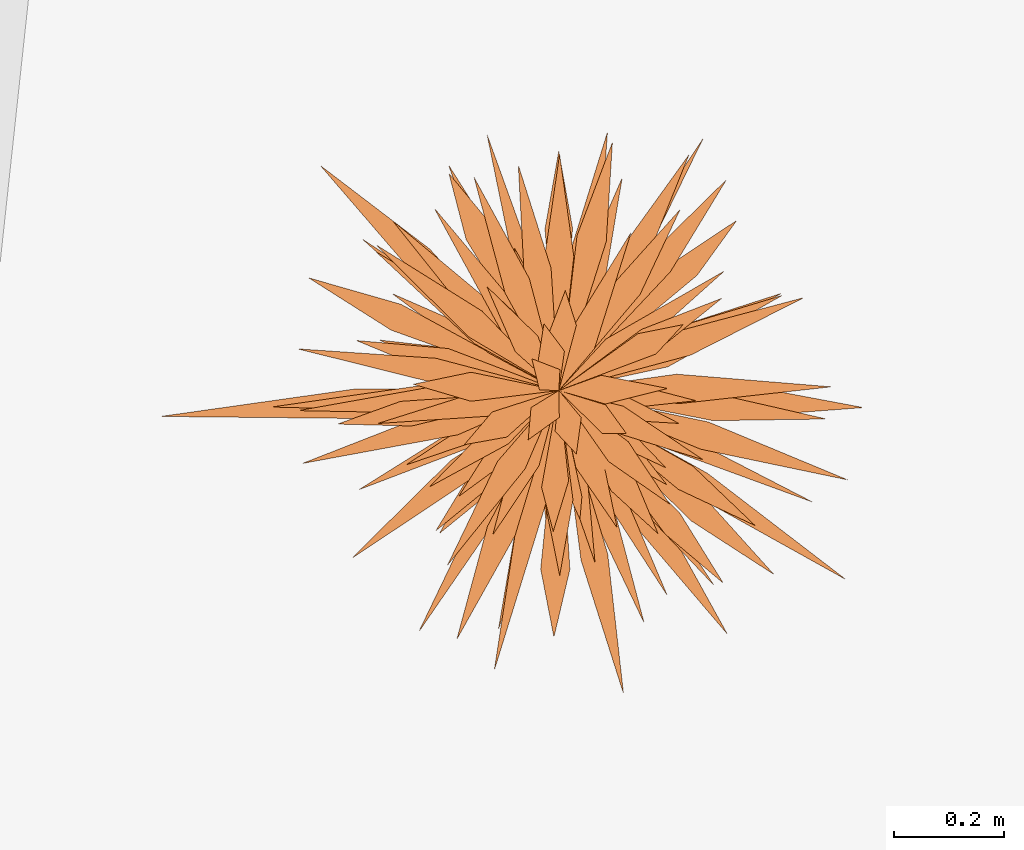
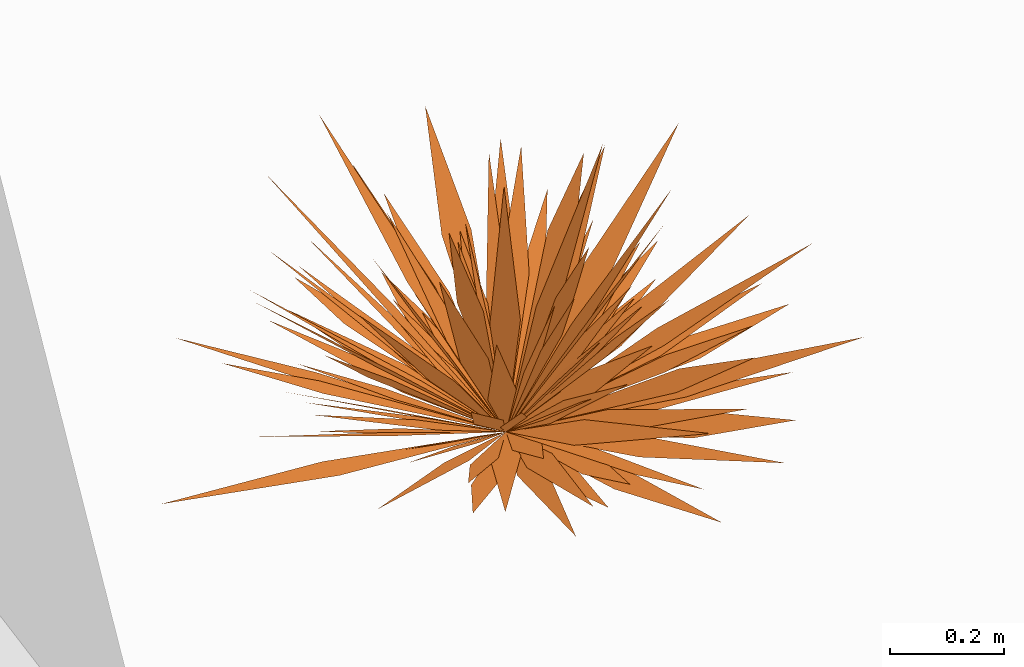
# One storey, part 7 of 7: 1 proxy.
"""IFC2X3 building model written with IfcOpenShell, lengths in metres."""

from ifc_helpers import new_model, entity, si_unit, converted_unit, derived_unit, money_unit, direction, frame, origin_with_axes, place, context, subcontext, project, spatial, open_shell, surface_model, type_object, element, save


model = new_model("IFC2X3")

# Units and contexts
model_context = context("Model", 3, precision=1e-05, world=origin_with_axes(), true_north=direction((0.0, 1.0)))
body_context = subcontext(model_context, "Body", "Model", "MODEL_VIEW")
ifc_project = project(units=[si_unit("LENGTHUNIT", "METRE"), si_unit("AREAUNIT", "SQUARE_METRE"), si_unit("VOLUMEUNIT", "CUBIC_METRE"), converted_unit("PLANEANGLEUNIT", "DEGREE", entity("IfcPlaneAngleMeasure", 0.0174532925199), si_unit("PLANEANGLEUNIT", "RADIAN"), dimensions=[0, 0, 0, 0, 0, 0, 0]), si_unit("SOLIDANGLEUNIT", "STERADIAN"), money_unit("CHF"), converted_unit("TIMEUNIT", "Year", entity("IfcTimeMeasure", 31556926.0), si_unit("TIMEUNIT", "SECOND"), dimensions=[0, 0, 1, 0, 0, 0, 0]), si_unit("MASSUNIT", "GRAM", prefix="KILO"), si_unit("THERMODYNAMICTEMPERATUREUNIT", "DEGREE_CELSIUS"), si_unit("LUMINOUSINTENSITYUNIT", "LUMEN"), si_unit("ENERGYUNIT", "JOULE", prefix="MEGA"), derived_unit("THERMALCONDUCTANCEUNIT", [(si_unit("POWERUNIT", "WATT"), 1), (si_unit("LENGTHUNIT", "METRE"), -1), (si_unit("THERMODYNAMICTEMPERATUREUNIT", "KELVIN"), -1)]), derived_unit("SPECIFICHEATCAPACITYUNIT", [(si_unit("ENERGYUNIT", "JOULE"), 1), (si_unit("MASSUNIT", "GRAM", prefix="KILO"), -1), (si_unit("THERMODYNAMICTEMPERATUREUNIT", "KELVIN"), -1)]), derived_unit("MASSDENSITYUNIT", [(si_unit("MASSUNIT", "GRAM", prefix="KILO"), 1), (si_unit("VOLUMEUNIT", "CUBIC_METRE"), -1)])], contexts=[model_context])

# Site, building, storey
site_placement = place(None, origin_with_axes())
site = spatial("IfcSite", under=ifc_project, at=site_placement, Name="Site", CompositionType="ELEMENT")
building_placement = place(site_placement, origin_with_axes())
building = spatial("IfcBuilding", under=site, at=building_placement, Name="Bâtiment", CompositionType="ELEMENT")
storey_placement = place(building_placement, frame((0.0, 0.0, 9.0), z_axis=(0.0, 0.0, 1.0), x_axis=(1.0, 0.0, 0.0)))
storey = spatial("IfcBuildingStorey", under=building, at=storey_placement, Name="TOITURE", CompositionType="ELEMENT", Elevation=9.0)

# Proxy
building_element_proxy_type = type_object("IfcBuildingElementProxyType", Name="Modèle herbe 24", PredefinedType="NOTDEFINED")
proxy_placement = place(storey_placement, frame((75.7287897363, 17.81655602, -9.3), z_axis=(0.0, 0.0, 1.0), x_axis=(0.0, -1.0, 0.0)))
element("IfcBuildingElementProxy", 1, at=proxy_placement, inside=storey, type_object=building_element_proxy_type, Name="Symb-0005", context=body_context, shape_type="SurfaceModel", body=[
    surface_model("IfcShellBasedSurfaceModel", [(0.0, 0.0, 0.0), (0.165092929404, 0.0872660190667, 0.0337343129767), (0.423767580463, 0.155513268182, 0.0795942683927), (0.182705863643, 0.0403683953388, 0.0315910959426)], [open_shell([[[0, 1, 2, 3]]])]),
    surface_model("IfcShellBasedSurfaceModel", [(0.0, 0.0, 0.0), (0.207106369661, 0.176252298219, 0.0510785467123), (0.444305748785, 0.307415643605, 0.0952674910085), (0.238892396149, 0.132334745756, 0.0445519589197)], [open_shell([[[0, 1, 2, 3]]])]),
    surface_model("IfcShellBasedSurfaceModel", [(0.0, 0.0, 0.0), (0.198539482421, 0.268829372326, 0.0718904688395), (0.335189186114, 0.391985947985, 0.0909417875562), (0.237657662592, 0.241280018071, 0.0464562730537)], [open_shell([[[0, 1, 2, 3]]])]),
    surface_model("IfcShellBasedSurfaceModel", [(0.0, 0.0, 0.0), (0.0336967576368, 0.134015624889, 0.0372232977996), (0.203690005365, 0.463441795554, 0.089261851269), (0.0777622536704, 0.119579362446, 0.0116207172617)], [open_shell([[[0, 1, 2, 3]]])]),
    surface_model("IfcShellBasedSurfaceModel", [(0.0, 0.0, 0.0), (-0.0041520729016, 0.367272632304, 0.0731677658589), (0.0310993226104, 0.555272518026, 0.098062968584), (0.0453008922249, 0.367431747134, 0.056583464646)], [open_shell([[[0, 1, 2, 3]]])]),
    surface_model("IfcShellBasedSurfaceModel", [(0.0, 0.0, 0.0), (-0.108729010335, 0.193048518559, 0.05076279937), (-0.177200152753, 0.405787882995, 0.078075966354), (-0.0693251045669, 0.214694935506, 0.0276894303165)], [open_shell([[[0, 1, 2, 3]]])]),
    surface_model("IfcShellBasedSurfaceModel", [(0.0, 0.0, 0.0), (-0.239578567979, 0.218307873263, 0.0685472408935), (-0.310161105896, 0.324474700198, 0.0791477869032), (-0.210009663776, 0.252028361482, 0.0461799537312)], [open_shell([[[0, 1, 2, 3]]])]),
    surface_model("IfcShellBasedSurfaceModel", [(0.0, 0.0, 0.0), (-0.166108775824, 0.0688009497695, 0.0423969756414), (-0.4599934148, 0.263325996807, 0.0934590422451), (-0.146689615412, 0.110262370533, 0.0211557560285)], [open_shell([[[0, 1, 2, 3]]])]),
    surface_model("IfcShellBasedSurfaceModel", [(0.0, 0.0, 0.0), (-0.257969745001, 0.0224565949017, 0.0524267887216), (-0.470817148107, 0.088645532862, 0.0844764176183), (-0.250823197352, 0.0733390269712, 0.0388634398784)], [open_shell([[[0, 1, 2, 3]]])]),
    surface_model("IfcShellBasedSurfaceModel", [(0.0, 0.0, 0.0), (-0.294343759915, -0.0252295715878, 0.0567955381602), (-0.436035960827, -0.000121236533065, 0.0768849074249), (-0.296031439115, 0.0250654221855, 0.0473035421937)], [open_shell([[[0, 1, 2, 3]]])]),
    surface_model("IfcShellBasedSurfaceModel", [(0.0, 0.0, 0.0), (-0.190354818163, -0.121675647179, 0.0410132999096), (-0.411293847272, -0.201135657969, 0.0807296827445), (-0.213358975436, -0.075753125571, 0.0382285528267)], [open_shell([[[0, 1, 2, 3]]])]),
    surface_model("IfcShellBasedSurfaceModel", [(0.0, 0.0, 0.0), (-0.217905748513, -0.269130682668, 0.0690638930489), (-0.410147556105, -0.434760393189, 0.1053895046), (-0.257909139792, -0.235237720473, 0.0531991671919)], [open_shell([[[0, 1, 2, 3]]])]),
    surface_model("IfcShellBasedSurfaceModel", [(0.0, 0.0, 0.0), (-0.0490116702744, -0.131873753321, 0.0357012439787), (-0.176821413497, -0.304072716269, 0.0620225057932), (-0.0923087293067, -0.111149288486, 0.0138688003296)], [open_shell([[[0, 1, 2, 3]]])]),
    surface_model("IfcShellBasedSurfaceModel", [(0.0, 0.0, 0.0), (-0.0251468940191, -0.181937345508, 0.0424957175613), (-0.0920770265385, -0.32727457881, 0.0599477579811), (-0.0743719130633, -0.171787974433, 0.0222970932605)], [open_shell([[[0, 1, 2, 3]]])]),
    surface_model("IfcShellBasedSurfaceModel", [(0.0, 0.0, 0.0), (0.0509276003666, -0.366069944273, 0.0659530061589), (0.0472768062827, -0.725992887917, 0.12828327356), (-0.00300043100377, -0.369910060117, 0.0640949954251)], [open_shell([[[0, 1, 2, 3]]])]),
    surface_model("IfcShellBasedSurfaceModel", [(0.0, 0.0, 0.0), (0.090387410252, -0.126656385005, 0.0379322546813), (0.180809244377, -0.364468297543, 0.0717391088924), (0.0478107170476, -0.15191806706, 0.0169001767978)], [open_shell([[[0, 1, 2, 3]]])]),
    surface_model("IfcShellBasedSurfaceModel", [(0.0, 0.0, 0.0), (0.179366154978, -0.117630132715, 0.0436950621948), (0.260197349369, -0.217245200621, 0.0597689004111), (0.149362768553, -0.156833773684, 0.0318159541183)], [open_shell([[[0, 1, 2, 3]]])]),
    surface_model("IfcShellBasedSurfaceModel", [(0.0, 0.0, 0.0), (0.151212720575, -0.0144489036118, 0.0388511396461), (0.435819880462, -0.110268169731, 0.079268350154), (0.143993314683, -0.0602421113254, 0.0148419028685)], [open_shell([[[0, 1, 2, 3]]])]),
    surface_model("IfcShellBasedSurfaceModel", [(0.0, 0.0, 0.0), (0.19258197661, 0.0214580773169, 0.0411114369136), (0.371045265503, -0.00692895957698, 0.0654366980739), (0.194119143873, -0.0286793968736, 0.0270862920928)], [open_shell([[[0, 1, 2, 3]]])]),
    surface_model("IfcShellBasedSurfaceModel", [(0.0, 0.0, 0.0), (0.297953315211, 0.0891043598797, 0.0584834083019), (0.552327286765, 0.11788978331, 0.0995839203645), (0.309647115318, 0.040583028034, 0.051066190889)], [open_shell([[[0, 1, 2, 3]]])]),
    surface_model("IfcShellBasedSurfaceModel", [(0.0, 0.0, 0.0), (0.128305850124, 0.131294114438, 0.0795536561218), (0.355951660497, 0.283457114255, 0.165616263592), (0.163350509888, 0.100962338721, 0.0561474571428)], [open_shell([[[0, 1, 2, 3]]])]),
    surface_model("IfcShellBasedSurfaceModel", [(0.0, 0.0, 0.0), (0.150638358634, 0.270607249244, 0.124293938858), (0.344869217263, 0.523775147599, 0.228251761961), (0.193257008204, 0.251688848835, 0.10331328)], [open_shell([[[0, 1, 2, 3]]])]),
    surface_model("IfcShellBasedSurfaceModel", [(0.0, 0.0, 0.0), (0.00515740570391, 0.282482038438, 0.108888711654), (0.0519256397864, 0.487731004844, 0.178522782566), (0.0548713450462, 0.281360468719, 0.0974929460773)], [open_shell([[[0, 1, 2, 3]]])]),
    surface_model("IfcShellBasedSurfaceModel", [(0.0, 0.0, 0.0), (-0.111561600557, 0.203104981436, 0.0974174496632), (-0.173605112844, 0.407741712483, 0.161297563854), (-0.0724886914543, 0.229169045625, 0.0735847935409)], [open_shell([[[0, 1, 2, 3]]])]),
    surface_model("IfcShellBasedSurfaceModel", [(0.0, 0.0, 0.0), (-0.243974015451, 0.162714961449, 0.112472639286), (-0.384330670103, 0.3055722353, 0.178710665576), (-0.216588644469, 0.203467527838, 0.101685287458)], [open_shell([[[0, 1, 2, 3]]])]),
    surface_model("IfcShellBasedSurfaceModel", [(0.0, 0.0, 0.0), (-0.196271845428, 0.0318525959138, 0.0734575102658), (-0.387677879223, 0.115475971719, 0.147229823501), (-0.182748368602, 0.0810445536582, 0.0704843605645)], [open_shell([[[0, 1, 2, 3]]])]),
    surface_model("IfcShellBasedSurfaceModel", [(0.0, 0.0, 0.0), (-0.119087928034, -0.0329242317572, 0.0489745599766), (-0.267396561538, -0.0144768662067, 0.0974669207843), (-0.125184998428, 0.0196992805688, 0.0400637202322)], [open_shell([[[0, 1, 2, 3]]])]),
    surface_model("IfcShellBasedSurfaceModel", [(0.0, 0.0, 0.0), (-0.154852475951, -0.0668438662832, 0.0740539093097), (-0.466321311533, -0.130785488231, 0.176276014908), (-0.175207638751, -0.0257255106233, 0.050713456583)], [open_shell([[[0, 1, 2, 3]]])]),
    surface_model("IfcShellBasedSurfaceModel", [(0.0, 0.0, 0.0), (-0.275034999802, -0.168925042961, 0.123986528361), (-0.395688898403, -0.200334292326, 0.16142542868), (-0.302913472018, -0.123685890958, 0.11179360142)], [open_shell([[[0, 1, 2, 3]]])]),
    surface_model("IfcShellBasedSurfaceModel", [(0.0, 0.0, 0.0), (-0.110631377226, -0.144165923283, 0.0669296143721), (-0.309086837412, -0.302628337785, 0.157443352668), (-0.147134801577, -0.108214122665, 0.0643719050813)], [open_shell([[[0, 1, 2, 3]]])]),
    surface_model("IfcShellBasedSurfaceModel", [(0.0, 0.0, 0.0), (-0.110106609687, -0.305740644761, 0.122066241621), (-0.205470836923, -0.456241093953, 0.182121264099), (-0.157068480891, -0.287512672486, 0.114747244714)], [open_shell([[[0, 1, 2, 3]]])]),
    surface_model("IfcShellBasedSurfaceModel", [(0.0, 0.0, 0.0), (0.037307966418, -0.244382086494, 0.0997692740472), (0.0301024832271, -0.523756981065, 0.190946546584), (-0.00868769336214, -0.253585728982, 0.0817752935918)], [open_shell([[[0, 1, 2, 3]]])]),
    surface_model("IfcShellBasedSurfaceModel", [(0.0, 0.0, 0.0), (0.0733876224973, -0.0957701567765, 0.0553239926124), (0.135526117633, -0.278226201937, 0.112641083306), (0.0336273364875, -0.123924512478, 0.0336203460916)], [open_shell([[[0, 1, 2, 3]]])]),
    surface_model("IfcShellBasedSurfaceModel", [(0.0, 0.0, 0.0), (0.161225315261, -0.10847077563, 0.0798661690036), (0.255699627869, -0.224200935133, 0.123775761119), (0.13330930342, -0.149781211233, 0.0627083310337)], [open_shell([[[0, 1, 2, 3]]])]),
    surface_model("IfcShellBasedSurfaceModel", [(0.0, 0.0, 0.0), (0.157309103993, -0.0606156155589, 0.0657630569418), (0.440245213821, -0.255511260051, 0.185268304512), (0.133539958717, -0.108188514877, 0.0566348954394)], [open_shell([[[0, 1, 2, 3]]])]),
    surface_model("IfcShellBasedSurfaceModel", [(0.0, 0.0, 0.0), (0.197873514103, -0.0210785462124, 0.0813732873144), (0.510399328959, -0.117741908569, 0.190649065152), (0.193043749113, -0.069100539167, 0.064645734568)], [open_shell([[[0, 1, 2, 3]]])]),
    surface_model("IfcShellBasedSurfaceModel", [(0.0, 0.0, 0.0), (0.326318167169, 0.0201216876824, 0.118988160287), (0.449353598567, -0.00890872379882, 0.163583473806), (0.325512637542, -0.0330446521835, 0.118305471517)], [open_shell([[[0, 1, 2, 3]]])]),
    surface_model("IfcShellBasedSurfaceModel", [(0.0, 0.0, 0.0), (0.118781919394, 0.0895141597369, 0.0669688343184), (0.373943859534, 0.197894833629, 0.153988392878), (0.148500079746, 0.0519341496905, 0.0430966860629)], [open_shell([[[0, 1, 2, 3]]])]),
    surface_model("IfcShellBasedSurfaceModel", [(0.0, 0.0, 0.0), (0.224157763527, 0.220973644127, 0.193865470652), (0.351288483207, 0.29990390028, 0.266674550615), (0.261696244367, 0.193812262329, 0.174962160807)], [open_shell([[[0, 1, 2, 3]]])]),
    surface_model("IfcShellBasedSurfaceModel", [(0.0, 0.0, 0.0), (0.137984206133, 0.24458557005, 0.163393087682), (0.246208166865, 0.35787378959, 0.250793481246), (0.180028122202, 0.217658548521, 0.160541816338)], [open_shell([[[0, 1, 2, 3]]])]),
    surface_model("IfcShellBasedSurfaceModel", [(0.0, 0.0, 0.0), (0.0573932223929, 0.272706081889, 0.161603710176), (0.162929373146, 0.526652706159, 0.318281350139), (0.1069851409, 0.258630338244, 0.159508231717)], [open_shell([[[0, 1, 2, 3]]])]),
    surface_model("IfcShellBasedSurfaceModel", [(0.0, 0.0, 0.0), (-0.0298018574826, 0.21462103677, 0.128599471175), (-0.0067335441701, 0.496762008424, 0.286832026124), (0.0239212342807, 0.21921738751, 0.121900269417)], [open_shell([[[0, 1, 2, 3]]])]),
    surface_model("IfcShellBasedSurfaceModel", [(0.0, 0.0, 0.0), (-0.0927910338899, 0.177465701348, 0.118564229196), (-0.124158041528, 0.343524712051, 0.210890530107), (-0.0432860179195, 0.199036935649, 0.112571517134)], [open_shell([[[0, 1, 2, 3]]])]),
    surface_model("IfcShellBasedSurfaceModel", [(0.0, 0.0, 0.0), (-0.0936648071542, 0.0856285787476, 0.0733221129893), (-0.218063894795, 0.302108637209, 0.215113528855), (-0.0525786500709, 0.116979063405, 0.0709426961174)], [open_shell([[[0, 1, 2, 3]]])]),
    surface_model("IfcShellBasedSurfaceModel", [(0.0, 0.0, 0.0), (-0.258769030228, 0.114037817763, 0.16475744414), (-0.429846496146, 0.237275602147, 0.283471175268), (-0.236021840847, 0.159087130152, 0.161542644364)], [open_shell([[[0, 1, 2, 3]]])]),
    surface_model("IfcShellBasedSurfaceModel", [(0.0, 0.0, 0.0), (-0.243374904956, -0.0257637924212, 0.141668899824), (-0.430737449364, 0.00140435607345, 0.248687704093), (-0.244245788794, 0.027353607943, 0.139860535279)], [open_shell([[[0, 1, 2, 3]]])]),
    surface_model("IfcShellBasedSurfaceModel", [(0.0, 0.0, 0.0), (-0.13636298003, -0.067638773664, 0.101219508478), (-0.259540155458, -0.0808352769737, 0.156945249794), (-0.162593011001, -0.025472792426, 0.0795606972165)], [open_shell([[[0, 1, 2, 3]]])]),
    surface_model("IfcShellBasedSurfaceModel", [(0.0, 0.0, 0.0), (-0.107694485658, -0.104420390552, 0.0871568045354), (-0.332718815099, -0.227324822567, 0.232650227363), (-0.137717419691, -0.0632533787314, 0.0844449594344)], [open_shell([[[0, 1, 2, 3]]])]),
    surface_model("IfcShellBasedSurfaceModel", [(0.0, 0.0, 0.0), (-0.0685865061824, -0.128290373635, 0.0930311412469), (-0.275950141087, -0.358166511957, 0.261043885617), (-0.111943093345, -0.106026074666, 0.0777466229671)], [open_shell([[[0, 1, 2, 3]]])]),
    surface_model("IfcShellBasedSurfaceModel", [(0.0, 0.0, 0.0), (-0.0248097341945, -0.208835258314, 0.126674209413), (-0.0911598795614, -0.36897963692, 0.21943571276), (-0.0765830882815, -0.201563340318, 0.117393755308)], [open_shell([[[0, 1, 2, 3]]])]),
    surface_model("IfcShellBasedSurfaceModel", [(0.0, 0.0, 0.0), (0.0413873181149, -0.226942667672, 0.141733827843), (0.0366728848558, -0.474844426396, 0.274967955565), (-0.00543284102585, -0.238599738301, 0.127847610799)], [open_shell([[[0, 1, 2, 3]]])]),
    surface_model("IfcShellBasedSurfaceModel", [(0.0, 0.0, 0.0), (0.080650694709, -0.18383961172, 0.116991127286), (0.133006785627, -0.467676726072, 0.280720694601), (0.0286745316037, -0.200568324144, 0.113747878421)], [open_shell([[[0, 1, 2, 3]]])]),
    surface_model("IfcShellBasedSurfaceModel", [(0.0, 0.0, 0.0), (0.159218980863, -0.156784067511, 0.141191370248), (0.306017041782, -0.377665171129, 0.280640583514), (0.127451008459, -0.197004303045, 0.121706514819)], [open_shell([[[0, 1, 2, 3]]])]),
    surface_model("IfcShellBasedSurfaceModel", [(0.0, 0.0, 0.0), (0.263984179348, -0.0796346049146, 0.162922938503), (0.453746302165, -0.186058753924, 0.283139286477), (0.247473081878, -0.130088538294, 0.156228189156)], [open_shell([[[0, 1, 2, 3]]])]),
    surface_model("IfcShellBasedSurfaceModel", [(0.0, 0.0, 0.0), (0.117539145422, 0.0483034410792, 0.121370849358), (0.313691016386, 0.0660080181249, 0.268982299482), (0.142950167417, 0.00650967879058, 0.101992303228)], [open_shell([[[0, 1, 2, 3]]])]),
    surface_model("IfcShellBasedSurfaceModel", [(0.0, 0.0, 0.0), (0.0710062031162, 0.118057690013, 0.131021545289), (0.171813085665, 0.196973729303, 0.219322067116), (0.118456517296, 0.0991503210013, 0.110830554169)], [open_shell([[[0, 1, 2, 3]]])]),
    surface_model("IfcShellBasedSurfaceModel", [(0.0, 0.0, 0.0), (-0.0178222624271, 0.110563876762, 0.092158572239), (0.0185594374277, 0.250181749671, 0.210504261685), (0.0339957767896, 0.107455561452, 0.0912841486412)], [open_shell([[[0, 1, 2, 3]]])]),
    surface_model("IfcShellBasedSurfaceModel", [(0.0, 0.0, 0.0), (-0.107219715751, 0.212905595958, 0.20948858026), (-0.16943886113, 0.447058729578, 0.401166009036), (-0.064512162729, 0.240203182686, 0.197106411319)], [open_shell([[[0, 1, 2, 3]]])]),
    surface_model("IfcShellBasedSurfaceModel", [(0.0, 0.0, 0.0), (-0.19478190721, 0.0999038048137, 0.193048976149), (-0.330068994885, 0.221180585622, 0.333394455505), (-0.175139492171, 0.147982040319, 0.180599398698)], [open_shell([[[0, 1, 2, 3]]])]),
    surface_model("IfcShellBasedSurfaceModel", [(0.0, 0.0, 0.0), (-0.282658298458, 0.0332169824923, 0.237984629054), (-0.452271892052, 0.097662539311, 0.388248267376), (-0.27143561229, 0.0864327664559, 0.23767172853)], [open_shell([[[0, 1, 2, 3]]])]),
    surface_model("IfcShellBasedSurfaceModel", [(0.0, 0.0, 0.0), (-0.206286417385, -0.0630098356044, 0.187505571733), (-0.41059005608, -0.073781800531, 0.350044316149), (-0.222866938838, -0.0141077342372, 0.17836469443)], [open_shell([[[0, 1, 2, 3]]])]),
    surface_model("IfcShellBasedSurfaceModel", [(0.0, 0.0, 0.0), (-0.0681471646, -0.0784008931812, 0.0922297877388), (-0.186083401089, -0.128181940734, 0.189602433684), (-0.103881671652, -0.0400996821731, 0.0830522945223)], [open_shell([[[0, 1, 2, 3]]])]),
    surface_model("IfcShellBasedSurfaceModel", [(0.0, 0.0, 0.0), (-0.0855116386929, -0.153959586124, 0.155190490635), (-0.253584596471, -0.33411043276, 0.351956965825), (-0.130586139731, -0.13076008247, 0.144737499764)], [open_shell([[[0, 1, 2, 3]]])]),
    surface_model("IfcShellBasedSurfaceModel", [(0.0, 0.0, 0.0), (-0.0115787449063, -0.217361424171, 0.195737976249), (-0.0759681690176, -0.476503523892, 0.40488341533), (-0.0587698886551, -0.223894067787, 0.179195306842)], [open_shell([[[0, 1, 2, 3]]])]),
    surface_model("IfcShellBasedSurfaceModel", [(0.0, 0.0, 0.0), (0.064678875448, -0.268339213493, 0.244239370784), (0.061165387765, -0.40313124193, 0.342138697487), (0.0198193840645, -0.288575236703, 0.228415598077)], [open_shell([[[0, 1, 2, 3]]])]),
    surface_model("IfcShellBasedSurfaceModel", [(0.0, 0.0, 0.0), (0.110165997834, -0.0692372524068, 0.116187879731), (0.193139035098, -0.182546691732, 0.222995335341), (0.0818474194, -0.112245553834, 0.105507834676)], [open_shell([[[0, 1, 2, 3]]])]),
    surface_model("IfcShellBasedSurfaceModel", [(0.0, 0.0, 0.0), (0.137268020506, -0.0360822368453, 0.127482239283), (0.263150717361, -0.120369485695, 0.242813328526), (0.126148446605, -0.0844088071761, 0.115576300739)], [open_shell([[[0, 1, 2, 3]]])]),
    surface_model("IfcShellBasedSurfaceModel", [(0.0, 0.0, 0.0), (0.125551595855, 0.0482405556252, 0.113702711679), (0.234492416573, 0.0384226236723, 0.199386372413), (0.137485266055, -0.00514079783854, 0.109954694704)], [open_shell([[[0, 1, 2, 3]]])]),
    surface_model("IfcShellBasedSurfaceModel", [(0.0, 0.0, 0.0), (0.147753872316, 0.133661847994, 0.242531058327), (0.260978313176, 0.18083888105, 0.378393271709), (0.182764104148, 0.0953629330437, 0.236687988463)], [open_shell([[[0, 1, 2, 3]]])]),
    surface_model("IfcShellBasedSurfaceModel", [(0.0, 0.0, 0.0), (0.0316732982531, 0.0900287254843, 0.114736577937), (0.140844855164, 0.195250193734, 0.286913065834), (0.0786872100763, 0.062961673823, 0.110077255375)], [open_shell([[[0, 1, 2, 3]]])]),
    surface_model("IfcShellBasedSurfaceModel", [(0.0, 0.0, 0.0), (0.00312914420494, 0.107474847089, 0.125622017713), (0.0600865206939, 0.219347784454, 0.271039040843), (0.0523667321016, 0.0951146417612, 0.124709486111)], [open_shell([[[0, 1, 2, 3]]])]),
    surface_model("IfcShellBasedSurfaceModel", [(0.0, 0.0, 0.0), (-0.111410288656, 0.150675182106, 0.23977163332), (-0.168094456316, 0.297097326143, 0.406809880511), (-0.0805565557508, 0.188615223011, 0.224812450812)], [open_shell([[[0, 1, 2, 3]]])]),
    surface_model("IfcShellBasedSurfaceModel", [(0.0, 0.0, 0.0), (-0.0976006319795, 0.0145278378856, 0.114438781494), (-0.288070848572, 0.131666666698, 0.377469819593), (-0.0761544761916, 0.0648892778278, 0.113238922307)], [open_shell([[[0, 1, 2, 3]]])]),
    surface_model("IfcShellBasedSurfaceModel", [(0.0, 0.0, 0.0), (-0.1774542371, -0.0978991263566, 0.248005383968), (-0.388560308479, -0.154485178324, 0.498325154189), (-0.203901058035, -0.0537214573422, 0.241079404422)], [open_shell([[[0, 1, 2, 3]]])]),
    surface_model("IfcShellBasedSurfaceModel", [(0.0, 0.0, 0.0), (-0.097973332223, -0.164705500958, 0.236012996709), (-0.265427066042, -0.333022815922, 0.507518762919), (-0.144681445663, -0.139745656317, 0.227963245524)], [open_shell([[[0, 1, 2, 3]]])]),
    surface_model("IfcShellBasedSurfaceModel", [(0.0, 0.0, 0.0), (0.046878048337, -0.129749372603, 0.180983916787), (0.0601490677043, -0.330241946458, 0.400041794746), (0.00520468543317, -0.156205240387, 0.165409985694)], [open_shell([[[0, 1, 2, 3]]])]),
    surface_model("IfcShellBasedSurfaceModel", [(0.0, 0.0, 0.0), (0.142508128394, -0.0614033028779, 0.198381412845), (0.318864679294, -0.203180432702, 0.45059787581), (0.129004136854, -0.111604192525, 0.185301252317)], [open_shell([[[0, 1, 2, 3]]])]),
    surface_model("IfcShellBasedSurfaceModel", [(0.0, 0.0, 0.0), (0.199267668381, 0.0258021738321, 0.249316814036), (0.337520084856, 0.0015872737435, 0.402245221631), (0.211020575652, -0.023872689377, 0.239651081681)], [open_shell([[[0, 1, 2, 3]]])]),
    surface_model("IfcShellBasedSurfaceModel", [(0.0, 0.0, 0.0), (0.117972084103, 0.0786878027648, 0.168585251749), (0.250194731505, 0.106290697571, 0.323962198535), (0.140816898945, 0.0312540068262, 0.166505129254)], [open_shell([[[0, 1, 2, 3]]])]),
    surface_model("IfcShellBasedSurfaceModel", [(0.0, 0.0, 0.0), (0.0285088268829, 0.117417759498, 0.209021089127), (0.126127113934, 0.262899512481, 0.505047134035), (0.0753534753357, 0.0990729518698, 0.206871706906)], [open_shell([[[0, 1, 2, 3]]])]),
    surface_model("IfcShellBasedSurfaceModel", [(0.0, 0.0, 0.0), (-0.103585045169, 0.144126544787, 0.318331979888), (-0.120117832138, 0.226723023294, 0.444403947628), (-0.0666405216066, 0.177175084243, 0.311457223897)], [open_shell([[[0, 1, 2, 3]]])]),
    surface_model("IfcShellBasedSurfaceModel", [(0.0, 0.0, 0.0), (-0.106425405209, -0.0173395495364, 0.200032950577), (-0.182238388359, 0.0118424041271, 0.316311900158), (-0.118871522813, 0.0319800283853, 0.191015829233)], [open_shell([[[0, 1, 2, 3]]])]),
    surface_model("IfcShellBasedSurfaceModel", [(0.0, 0.0, 0.0), (-0.0707767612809, -0.079402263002, 0.179197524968), (-0.189659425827, -0.131240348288, 0.399479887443), (-0.0993454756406, -0.0383187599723, 0.179131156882)], [open_shell([[[0, 1, 2, 3]]])]),
    surface_model("IfcShellBasedSurfaceModel", [(0.0, 0.0, 0.0), (0.019584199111, -0.16013595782, 0.277953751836), (-0.0114140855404, -0.265231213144, 0.459819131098), (-0.0333548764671, -0.159855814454, 0.276801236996)], [open_shell([[[0, 1, 2, 3]]])]),
    surface_model("IfcShellBasedSurfaceModel", [(0.0, 0.0, 0.0), (0.0970054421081, -0.0916440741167, 0.247459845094), (0.175941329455, -0.236281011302, 0.510247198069), (0.0702371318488, -0.13295491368, 0.237560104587)], [open_shell([[[0, 1, 2, 3]]])]),
    surface_model("IfcShellBasedSurfaceModel", [(0.0, 0.0, 0.0), (0.16462429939, 0.0179049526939, 0.29967880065), (0.25700400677, -0.010196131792, 0.445494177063), (0.176529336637, -0.0314395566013, 0.291681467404)], [open_shell([[[0, 1, 2, 3]]])]),
    surface_model("IfcShellBasedSurfaceModel", [(0.0, 0.0, 0.0), (0.0930664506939, 0.126422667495, 0.269218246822), (0.206777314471, 0.20169756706, 0.500316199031), (0.129273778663, 0.0904554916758, 0.268753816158)], [open_shell([[[0, 1, 2, 3]]])]),
    surface_model("IfcShellBasedSurfaceModel", [(0.0, 0.0, 0.0), (-0.0277480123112, 0.0769627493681, 0.223639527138), (-0.00379467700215, 0.198315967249, 0.544968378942), (0.0246510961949, 0.0848871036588, 0.221120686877)], [open_shell([[[0, 1, 2, 3]]])]),
    surface_model("IfcShellBasedSurfaceModel", [(0.0, 0.0, 0.0), (-0.0522006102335, -0.0379246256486, 0.17603428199), (-0.121731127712, -0.0272022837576, 0.342702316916), (-0.0717486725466, 0.0102266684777, 0.172912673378)], [open_shell([[[0, 1, 2, 3]]])]),
    surface_model("IfcShellBasedSurfaceModel", [(0.0, 0.0, 0.0), (0.084840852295, -0.094766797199, 0.342517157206), (0.0987730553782, -0.172368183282, 0.545821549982), (0.0390941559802, -0.121511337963, 0.342349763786)], [open_shell([[[0, 1, 2, 3]]])]),
    surface_model("IfcShellBasedSurfaceModel", [(0.0, 0.0, 0.0), (0.0495351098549, 0.040962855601, 0.178319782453), (0.115729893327, 0.0319328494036, 0.32984739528), (0.0741839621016, -0.00682558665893, 0.174297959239)], [open_shell([[[0, 1, 2, 3]]])]),
    surface_model("IfcShellBasedSurfaceModel", [(0.0, 0.0, 0.0), (0.0261529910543, 0.0853251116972, 0.272559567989), (0.0783653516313, 0.123066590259, 0.400854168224), (0.0787588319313, 0.0794306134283, 0.264085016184)], [open_shell([[[0, 1, 2, 3]]])]),
    surface_model("IfcShellBasedSurfaceModel", [(0.0, 0.0, 0.0), (-0.00101576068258, -0.0352294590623, 0.146102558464), (-0.0579586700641, -0.0491217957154, 0.430874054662), (-0.0381883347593, 0.00200275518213, 0.145346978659)], [open_shell([[[0, 1, 2, 3]]])]),
    surface_model("IfcShellBasedSurfaceModel", [(0.0, 0.0, 0.0), (0.0489900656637, 0.000907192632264, 0.268487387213), (0.089806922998, -0.0558343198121, 0.599729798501), (0.0311012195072, -0.0507011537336, 0.266361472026)], [open_shell([[[0, 1, 2, 3]]])]),
])

save(model, "model.ifc")
